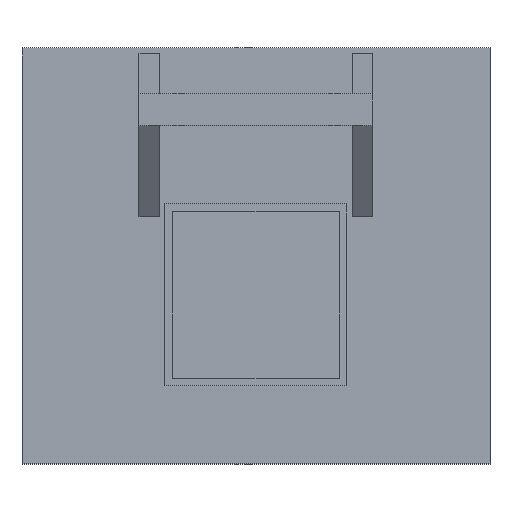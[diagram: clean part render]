
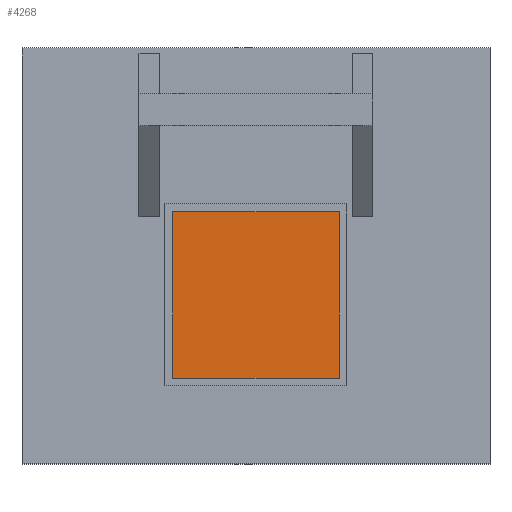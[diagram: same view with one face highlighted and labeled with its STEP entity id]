
A CAD part, top view. The second image highlights one B-rep face of the part: STEP entity #4268.
In plain terms, the highlighted planar face has unit normal (0, 0, 1).
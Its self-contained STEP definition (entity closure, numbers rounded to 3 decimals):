
#3072 = PLANE('',#3073);
#3073 = AXIS2_PLACEMENT_3D('',#3074,#3075,#3076);
#3074 = CARTESIAN_POINT('',(58.,33.,9.5));
#3075 = DIRECTION('',(0.,1.,0.));
#3076 = DIRECTION('',(0.,0.,1.));
#3098 = PLANE('',#3099);
#3099 = AXIS2_PLACEMENT_3D('',#3100,#3101,#3102);
#3100 = CARTESIAN_POINT('',(58.,33.,9.5));
#3101 = DIRECTION('',(1.,0.,0.));
#3102 = DIRECTION('',(0.,0.,1.));
#3124 = PLANE('',#3125);
#3125 = AXIS2_PLACEMENT_3D('',#3126,#3127,#3128);
#3126 = CARTESIAN_POINT('',(58.,97.,9.5));
#3127 = DIRECTION('',(0.,1.,0.));
#3128 = DIRECTION('',(0.,0.,1.));
#3148 = PLANE('',#3149);
#3149 = AXIS2_PLACEMENT_3D('',#3150,#3151,#3152);
#3150 = CARTESIAN_POINT('',(122.,33.,9.5));
#3151 = DIRECTION('',(1.,0.,0.));
#3152 = DIRECTION('',(0.,0.,1.));
#4072 = VERTEX_POINT('',#4073);
#4073 = CARTESIAN_POINT('',(122.,33.,9.5));
#4094 = EDGE_CURVE('',#4095,#4072,#4097,.T.);
#4095 = VERTEX_POINT('',#4096);
#4096 = CARTESIAN_POINT('',(58.,33.,9.5));
#4097 = SURFACE_CURVE('',#4098,(#4102,#4109),.PCURVE_S1.);
#4098 = LINE('',#4099,#4100);
#4099 = CARTESIAN_POINT('',(58.,33.,9.5));
#4100 = VECTOR('',#4101,1.);
#4101 = DIRECTION('',(1.,0.,0.));
#4102 = PCURVE('',#3072,#4103);
#4103 = DEFINITIONAL_REPRESENTATION('',(#4104),#4108);
#4104 = LINE('',#4105,#4106);
#4105 = CARTESIAN_POINT('',(0.,0.));
#4106 = VECTOR('',#4107,1.);
#4107 = DIRECTION('',(0.,1.));
#4108 = ( GEOMETRIC_REPRESENTATION_CONTEXT(2) 
PARAMETRIC_REPRESENTATION_CONTEXT() REPRESENTATION_CONTEXT('2D SPACE',''
  ) );
#4109 = PCURVE('',#4110,#4115);
#4110 = PLANE('',#4111);
#4111 = AXIS2_PLACEMENT_3D('',#4112,#4113,#4114);
#4112 = CARTESIAN_POINT('',(58.,33.,9.5));
#4113 = DIRECTION('',(0.,0.,1.));
#4114 = DIRECTION('',(1.,0.,0.));
#4115 = DEFINITIONAL_REPRESENTATION('',(#4116),#4120);
#4116 = LINE('',#4117,#4118);
#4117 = CARTESIAN_POINT('',(0.,0.));
#4118 = VECTOR('',#4119,1.);
#4119 = DIRECTION('',(1.,0.));
#4120 = ( GEOMETRIC_REPRESENTATION_CONTEXT(2) 
PARAMETRIC_REPRESENTATION_CONTEXT() REPRESENTATION_CONTEXT('2D SPACE',''
  ) );
#4148 = EDGE_CURVE('',#4072,#4149,#4151,.T.);
#4149 = VERTEX_POINT('',#4150);
#4150 = CARTESIAN_POINT('',(122.,97.,9.5));
#4151 = SURFACE_CURVE('',#4152,(#4156,#4163),.PCURVE_S1.);
#4152 = LINE('',#4153,#4154);
#4153 = CARTESIAN_POINT('',(122.,33.,9.5));
#4154 = VECTOR('',#4155,1.);
#4155 = DIRECTION('',(0.,1.,0.));
#4156 = PCURVE('',#3148,#4157);
#4157 = DEFINITIONAL_REPRESENTATION('',(#4158),#4162);
#4158 = LINE('',#4159,#4160);
#4159 = CARTESIAN_POINT('',(0.,0.));
#4160 = VECTOR('',#4161,1.);
#4161 = DIRECTION('',(0.,-1.));
#4162 = ( GEOMETRIC_REPRESENTATION_CONTEXT(2) 
PARAMETRIC_REPRESENTATION_CONTEXT() REPRESENTATION_CONTEXT('2D SPACE',''
  ) );
#4163 = PCURVE('',#4110,#4164);
#4164 = DEFINITIONAL_REPRESENTATION('',(#4165),#4169);
#4165 = LINE('',#4166,#4167);
#4166 = CARTESIAN_POINT('',(64.,0.));
#4167 = VECTOR('',#4168,1.);
#4168 = DIRECTION('',(0.,1.));
#4169 = ( GEOMETRIC_REPRESENTATION_CONTEXT(2) 
PARAMETRIC_REPRESENTATION_CONTEXT() REPRESENTATION_CONTEXT('2D SPACE',''
  ) );
#4197 = EDGE_CURVE('',#4198,#4149,#4200,.T.);
#4198 = VERTEX_POINT('',#4199);
#4199 = CARTESIAN_POINT('',(58.,97.,9.5));
#4200 = SURFACE_CURVE('',#4201,(#4205,#4212),.PCURVE_S1.);
#4201 = LINE('',#4202,#4203);
#4202 = CARTESIAN_POINT('',(58.,97.,9.5));
#4203 = VECTOR('',#4204,1.);
#4204 = DIRECTION('',(1.,0.,0.));
#4205 = PCURVE('',#3124,#4206);
#4206 = DEFINITIONAL_REPRESENTATION('',(#4207),#4211);
#4207 = LINE('',#4208,#4209);
#4208 = CARTESIAN_POINT('',(0.,0.));
#4209 = VECTOR('',#4210,1.);
#4210 = DIRECTION('',(0.,1.));
#4211 = ( GEOMETRIC_REPRESENTATION_CONTEXT(2) 
PARAMETRIC_REPRESENTATION_CONTEXT() REPRESENTATION_CONTEXT('2D SPACE',''
  ) );
#4212 = PCURVE('',#4110,#4213);
#4213 = DEFINITIONAL_REPRESENTATION('',(#4214),#4218);
#4214 = LINE('',#4215,#4216);
#4215 = CARTESIAN_POINT('',(0.,64.));
#4216 = VECTOR('',#4217,1.);
#4217 = DIRECTION('',(1.,0.));
#4218 = ( GEOMETRIC_REPRESENTATION_CONTEXT(2) 
PARAMETRIC_REPRESENTATION_CONTEXT() REPRESENTATION_CONTEXT('2D SPACE',''
  ) );
#4246 = EDGE_CURVE('',#4095,#4198,#4247,.T.);
#4247 = SURFACE_CURVE('',#4248,(#4252,#4259),.PCURVE_S1.);
#4248 = LINE('',#4249,#4250);
#4249 = CARTESIAN_POINT('',(58.,33.,9.5));
#4250 = VECTOR('',#4251,1.);
#4251 = DIRECTION('',(0.,1.,0.));
#4252 = PCURVE('',#3098,#4253);
#4253 = DEFINITIONAL_REPRESENTATION('',(#4254),#4258);
#4254 = LINE('',#4255,#4256);
#4255 = CARTESIAN_POINT('',(0.,0.));
#4256 = VECTOR('',#4257,1.);
#4257 = DIRECTION('',(0.,-1.));
#4258 = ( GEOMETRIC_REPRESENTATION_CONTEXT(2) 
PARAMETRIC_REPRESENTATION_CONTEXT() REPRESENTATION_CONTEXT('2D SPACE',''
  ) );
#4259 = PCURVE('',#4110,#4260);
#4260 = DEFINITIONAL_REPRESENTATION('',(#4261),#4265);
#4261 = LINE('',#4262,#4263);
#4262 = CARTESIAN_POINT('',(0.,0.));
#4263 = VECTOR('',#4264,1.);
#4264 = DIRECTION('',(0.,1.));
#4265 = ( GEOMETRIC_REPRESENTATION_CONTEXT(2) 
PARAMETRIC_REPRESENTATION_CONTEXT() REPRESENTATION_CONTEXT('2D SPACE',''
  ) );
#4268 = ADVANCED_FACE('',(#4269),#4110,.T.);
#4269 = FACE_BOUND('',#4270,.T.);
#4270 = EDGE_LOOP('',(#4271,#4272,#4273,#4274));
#4271 = ORIENTED_EDGE('',*,*,#4246,.F.);
#4272 = ORIENTED_EDGE('',*,*,#4094,.T.);
#4273 = ORIENTED_EDGE('',*,*,#4148,.T.);
#4274 = ORIENTED_EDGE('',*,*,#4197,.F.);
